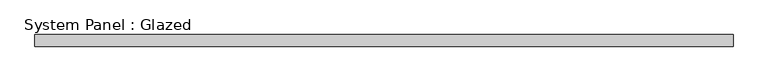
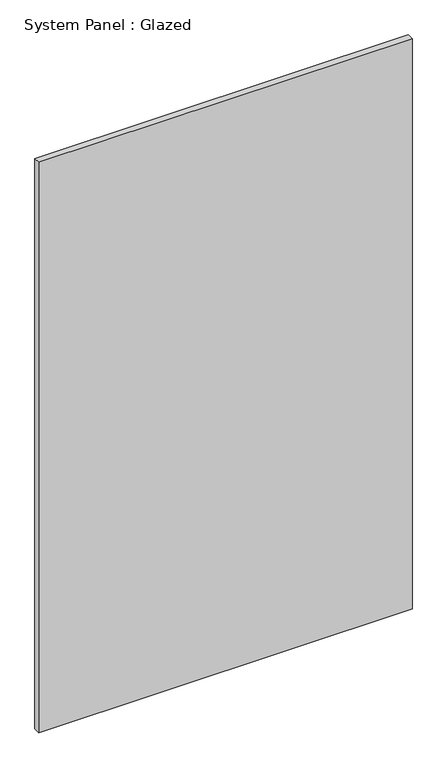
"""IFC4 building model written with IfcOpenShell, lengths in millimetres: plate geometry, System Panel : Glazed."""

from ifc_helpers import new_model, si_unit, origin, origin_with_axes, place, context, project, spatial, polyline, outline, extrude, source, transform, mapped, element, save


def system_panel_glazed_97d3e589(model_context):
    return source(origin(), model_context, "Body", "SweptSolid", [
        extrude(outline(polyline([(726.9631579, 24.5), (-726.9631579, 24.5), (-726.9631579, 49.5), (726.9631579, 49.5), (726.9631579, 24.5)])), origin_with_axes(), (0.0, 0.0, 1.0), 2350.0),
    ])


if __name__ == "__main__":
    model = new_model("IFC4")
    model_context = context("Model", 3, world=origin())
    ifc_project = project(units=[si_unit("LENGTHUNIT", "METRE", prefix="MILLI")], contexts=[model_context])
    site = spatial("IfcSite", under=ifc_project)
    building = spatial("IfcBuilding", under=site)
    placement = place(None, origin())
    system_panel_glazed_shape = system_panel_glazed_97d3e589(model_context)
    element("IfcPlate", 1, ObjectType="System Panel : Glazed", at=placement, inside=building, context=model_context, shape_type="MappedRepresentation", body=[
        mapped(system_panel_glazed_shape, transform((0.0, 0.0, 0.0), x_axis=(1.0, 0.0, 0.0), y_axis=(0.0, 1.0, 0.0), z_axis=(0.0, 0.0, 1.0))),
    ])
    save(model, "model.ifc")
